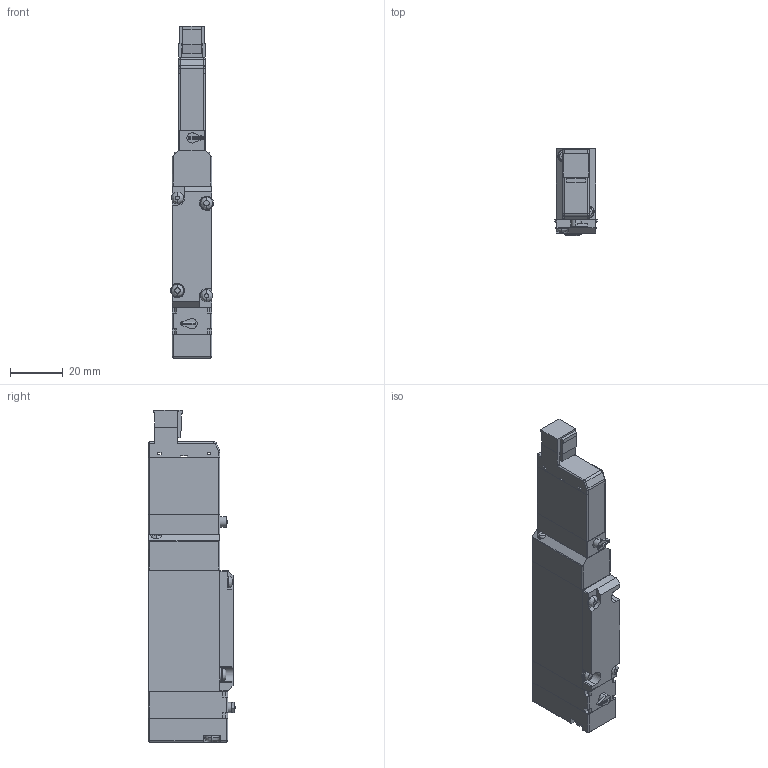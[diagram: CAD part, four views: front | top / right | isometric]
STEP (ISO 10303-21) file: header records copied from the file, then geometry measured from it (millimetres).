
FILE_DESCRIPTION( (''), '2;1');
FILE_NAME ('CVICAD02.3360.F15T3-R-A1-PS_21873.stp','2021-07-12T19:14:46',(''),(''),'spGate 12.6.6','','');
FILE_SCHEMA (('AUTOMOTIVE_DESIGN'));
Length unit declared in the file: millimetre
Products named in the file (8): Assembly; CVICAD02-prt0; CVICAD02-prt1; CVICAD02-prt2; CVICAD02-prt3; CVICAD02-prt4; CVICAD02-prt5; CVICAD02-prt6
Assembly tree (7 placements, depth 2):
  Assembly
    CVICAD02-prt0
    CVICAD02-prt1
    CVICAD02-prt2
    CVICAD02-prt3
    CVICAD02-prt4
    CVICAD02-prt5
    CVICAD02-prt6
Bounding box: 16.2 x 32.99 x 125.5 mm (x, y, z)
Volume: 45263.8 mm3; surface area: 17622.7 mm2
Topology: 7 solids, 7 shells, 363 faces, 932 edges, 583 vertices
Faces by surface type: plane 194, cylinder 132, bspline 24, sphere 13
Entity records: 18780 total; most frequent: CARTESIAN_POINT 2575, ORIENTED_EDGE 1830, DIRECTION 1767, COLOUR_RGB 1285, PRESENTATION_STYLE_ASSIGNMENT 1285, STYLED_ITEM 1285, EDGE_CURVE 915, DRAUGHTING_PRE_DEFINED_CURVE_FONT 915
